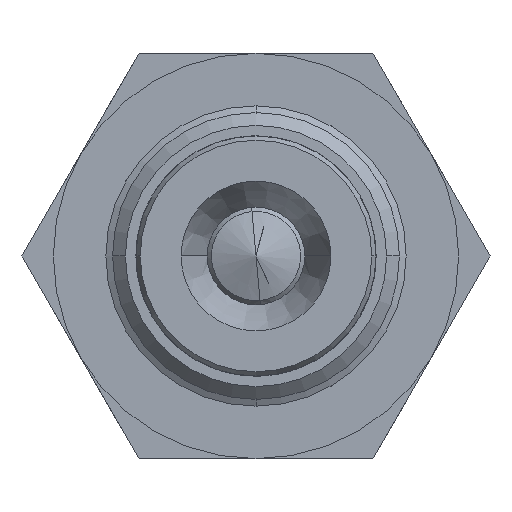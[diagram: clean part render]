
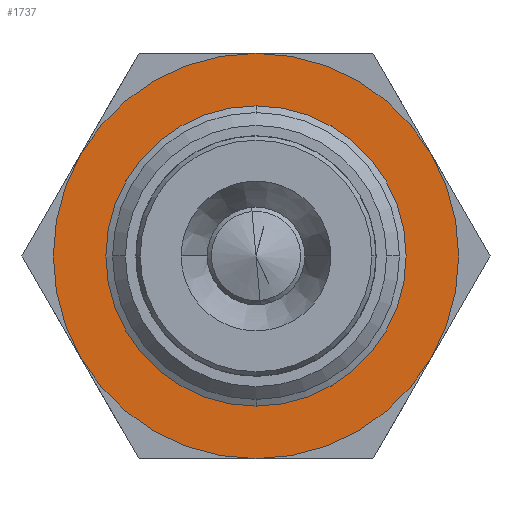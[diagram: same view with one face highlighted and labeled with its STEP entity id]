
A CAD part, front view. The second image highlights one B-rep face of the part: STEP entity #1737.
In plain terms, the highlighted planar face has unit normal (0, -1, 0).
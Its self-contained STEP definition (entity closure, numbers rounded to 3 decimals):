
#673 = CIRCLE ( 'NONE', #11247, 8.5 ) ;
#866 = DIRECTION ( 'NONE',  ( 0., 1., 0. ) ) ;
#1327 = EDGE_LOOP ( 'NONE', ( #2533, #10437 ) ) ;
#1351 = PLANE ( 'NONE',  #8645 ) ;
#1397 = CARTESIAN_POINT ( 'NONE',  ( 13.5, 30.5, 0. ) ) ;
#1737 = ADVANCED_FACE ( 'NONE', ( #2311, #7903 ), #1351, .F. ) ;
#2194 = CARTESIAN_POINT ( 'NONE',  ( -13.5, 30.5, 0. ) ) ;
#2311 = FACE_OUTER_BOUND ( 'NONE', #6941, .T. ) ;
#2500 = DIRECTION ( 'NONE',  ( -1., 0., 0. ) ) ;
#2532 = ORIENTED_EDGE ( 'NONE', *, *, #8797, .F. ) ;
#2533 = ORIENTED_EDGE ( 'NONE', *, *, #7432, .T. ) ;
#3118 = DIRECTION ( 'NONE',  ( 0., 1., 0. ) ) ;
#3352 = CARTESIAN_POINT ( 'NONE',  ( -8.5, 30.5, 0. ) ) ;
#4748 = AXIS2_PLACEMENT_3D ( 'NONE', #9823, #3118, #10966 ) ;
#5038 = DIRECTION ( 'NONE',  ( 0., 1., 0. ) ) ;
#5616 = AXIS2_PLACEMENT_3D ( 'NONE', #7565, #866, #8725 ) ;
#5893 = DIRECTION ( 'NONE',  ( 0., 1., 0. ) ) ;
#5973 = AXIS2_PLACEMENT_3D ( 'NONE', #12638, #5893, #13758 ) ;
#6611 = EDGE_CURVE ( 'NONE', #9042, #12846, #14236, .T. ) ;
#6941 = EDGE_LOOP ( 'NONE', ( #2532, #9029 ) ) ;
#7432 = EDGE_CURVE ( 'NONE', #9557, #12058, #673, .T. ) ;
#7446 = CARTESIAN_POINT ( 'NONE',  ( 13.5, 30.5, 0. ) ) ;
#7565 = CARTESIAN_POINT ( 'NONE',  ( 0., 30.5, 0. ) ) ;
#7903 = FACE_BOUND ( 'NONE', #1327, .T. ) ;
#8645 = AXIS2_PLACEMENT_3D ( 'NONE', #1397, #9210, #2500 ) ;
#8725 = DIRECTION ( 'NONE',  ( -1., 0., 0. ) ) ;
#8797 = EDGE_CURVE ( 'NONE', #12846, #9042, #14320, .T. ) ;
#9029 = ORIENTED_EDGE ( 'NONE', *, *, #6611, .F. ) ;
#9042 = VERTEX_POINT ( 'NONE', #7446 ) ;
#9210 = DIRECTION ( 'NONE',  ( 0., 1., 0. ) ) ;
#9416 = EDGE_CURVE ( 'NONE', #12058, #9557, #10819, .T. ) ;
#9557 = VERTEX_POINT ( 'NONE', #3352 ) ;
#9823 = CARTESIAN_POINT ( 'NONE',  ( 0., 30.5, 0. ) ) ;
#10437 = ORIENTED_EDGE ( 'NONE', *, *, #9416, .T. ) ;
#10819 = CIRCLE ( 'NONE', #5616, 8.5 ) ;
#10966 = DIRECTION ( 'NONE',  ( -1., 0., 0. ) ) ;
#11247 = AXIS2_PLACEMENT_3D ( 'NONE', #11781, #5038, #12923 ) ;
#11781 = CARTESIAN_POINT ( 'NONE',  ( 0., 30.5, 0. ) ) ;
#12058 = VERTEX_POINT ( 'NONE', #12277 ) ;
#12277 = CARTESIAN_POINT ( 'NONE',  ( 8.5, 30.5, 0. ) ) ;
#12638 = CARTESIAN_POINT ( 'NONE',  ( 0., 30.5, 0. ) ) ;
#12846 = VERTEX_POINT ( 'NONE', #2194 ) ;
#12923 = DIRECTION ( 'NONE',  ( -1., 0., 0. ) ) ;
#13758 = DIRECTION ( 'NONE',  ( -1., 0., 0. ) ) ;
#14236 = CIRCLE ( 'NONE', #4748, 13.5 ) ;
#14320 = CIRCLE ( 'NONE', #5973, 13.5 ) ;
